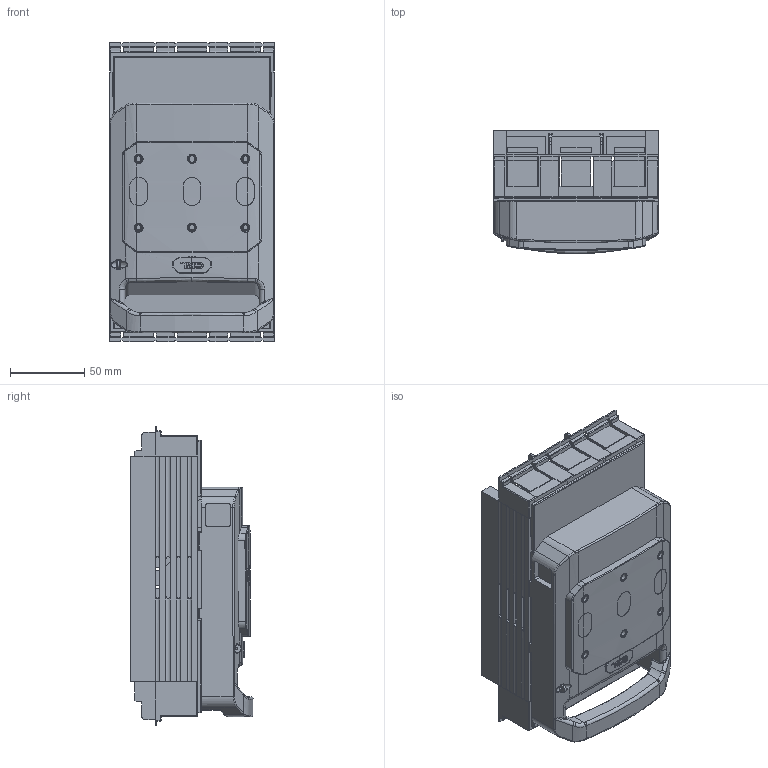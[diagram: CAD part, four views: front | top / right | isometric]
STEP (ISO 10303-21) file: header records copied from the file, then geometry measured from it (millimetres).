
FILE_DESCRIPTION(/* description */ (''),/* implementation_level */ '2;1');
FILE_NAME(/* name */ 'DNH1-160 30 新外观 总装-带铅封锁-外发',/* time_stamp */ '2025-01-09T09:50:48+08:00',/* author */ (''),/* organization */ (''),/* preprocessor_version */ 'ST-DEVELOPER v19.2',/* originating_system */ 'Rhino 8.2',/* authorisation */ '');
FILE_SCHEMA (('CONFIG_CONTROL_DESIGN'));
Length unit declared in the file: millimetre
Products named in the file (1): Document
Bounding box: 111 x 82.63 x 202 mm (x, y, z)
Surface area: 210644.5 mm2 (no closed solid volume)
Topology: 0 solids, 33 shells, 1649 faces, 7246 edges, 5434 vertices
Faces by surface type: plane 1087, cylinder 402, bspline 160
Entity records: 78118 total; most frequent: CARTESIAN_POINT 33105, ORIENTED_EDGE 11041, EDGE_CURVE 7242, B_SPLINE_CURVE_WITH_KNOTS 6038, VERTEX_POINT 5434, DIRECTION 3667, AXIS2_PLACEMENT_3D 2578, EDGE_LOOP 1774
